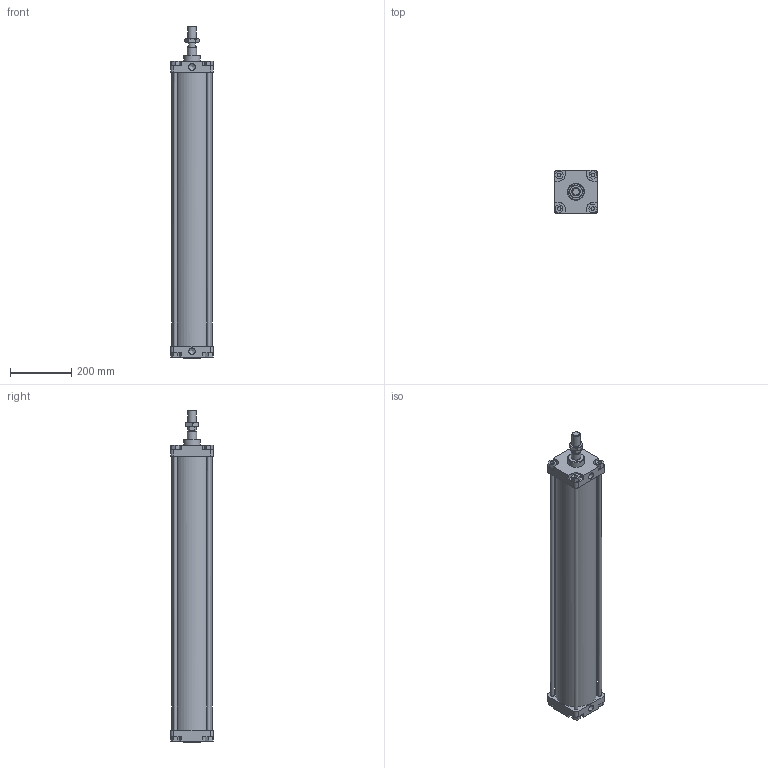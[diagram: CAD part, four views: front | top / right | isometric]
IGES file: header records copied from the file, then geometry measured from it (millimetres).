
Global section: file name: 1305_125_0800_01A; native system: Autodesk Inventor 2014; preprocessor: unknown; author: A. Manieri; date: 20161124.143404; units: millimetre
Bounding box: 140 x 140 x 1086 mm (x, y, z)
Volume: 5014844.2 mm3; surface area: 1167562.3 mm2
Topology: 9 solids, 9 shells, 175 faces, 440 edges, 295 vertices
Faces by surface type: bspline 175
